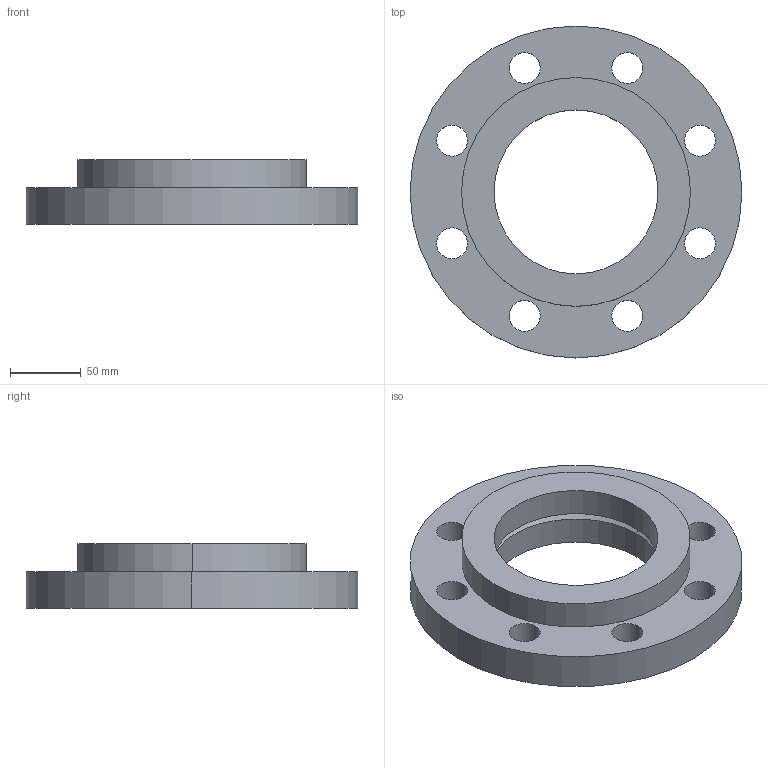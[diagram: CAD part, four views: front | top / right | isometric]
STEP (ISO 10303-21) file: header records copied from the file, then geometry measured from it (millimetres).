
FILE_DESCRIPTION (( 'STEP AP214' ), '1' );
FILE_NAME ('PN40 DN100 Type 02 in 32 - (Type A Face).STEP', '2019-01-02T00:27:53', ( '' ), ( '' ), 'SwSTEP 2.0', 'SolidWorks 2019', '' );
FILE_SCHEMA (( 'AUTOMOTIVE_DESIGN' ));
Length unit declared in the file: millimetre
Products named in the file (1): PN40 DN100 Type 02 in 32 - (Type A Face)
Bounding box: 235 x 235 x 46 mm (x, y, z)
Volume: 948454.7 mm3; surface area: 137694.9 mm2
Topology: 2 solids, 2 shells, 30 faces, 76 edges, 50 vertices
Faces by surface type: cylinder 24, plane 4, cone 2
Entity records: 1017 total; most frequent: DIRECTION 188, CARTESIAN_POINT 157, ORIENTED_EDGE 152, AXIS2_PLACEMENT_3D 81, EDGE_CURVE 76, CIRCLE 50, EDGE_LOOP 50, VERTEX_POINT 50
